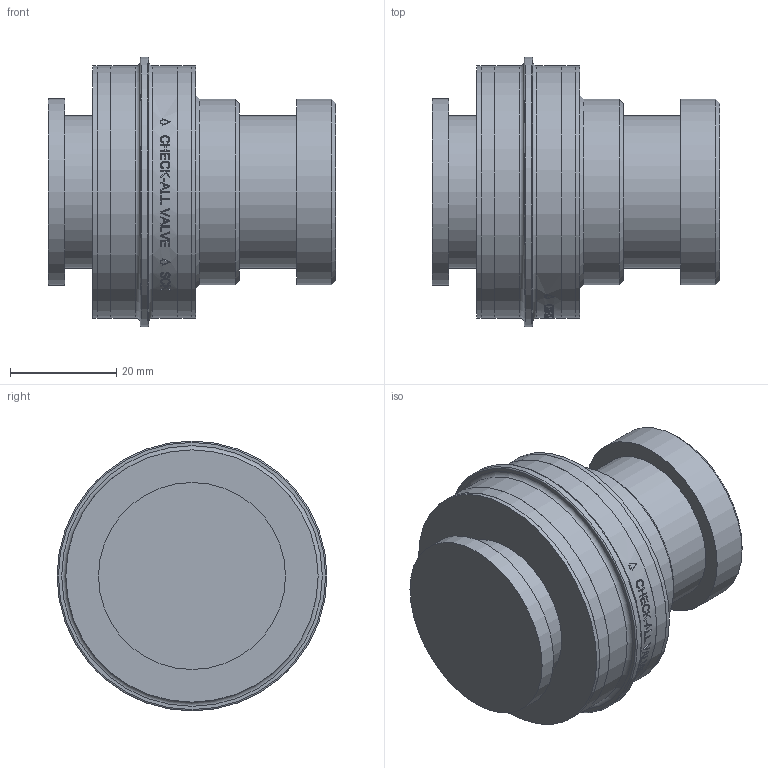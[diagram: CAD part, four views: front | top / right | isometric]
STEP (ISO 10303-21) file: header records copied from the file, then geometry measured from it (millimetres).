
FILE_DESCRIPTION( ( 'Unknown' ), '1' );
FILE_NAME( 'Y:/ENGR/3D Solid Edge Models/SC/SC-PRT/SCK.stp', 'Unknown', ( 'Unknown' ), ( 'Unknown' ), 'PSStep 14.0', 'Unknown', ' ' );
FILE_SCHEMA( ( 'AUTOMOTIVE_DESIGN { 1 0 10303 214 1 1 1 1 }' ) );
Length unit declared in the file: inch
Products named in the file (1): 1
Bounding box: 54.09 x 50.8 x 50.8 mm (x, y, z)
Volume: 63077.4 mm3; surface area: 11472.1 mm2
Topology: 1 solids, 1 shells, 217 faces, 536 edges, 355 vertices
Faces by surface type: plane 121, bspline 54, cylinder 35, torus 4, cone 3
Full cylindrical faces by diameter (mm): 28.829 x2, 34.925 x2, 35.179 x1, 47.473 x4, 47.498 x2, 50.8 x1
Entity records: 9584 total; most frequent: CARTESIAN_POINT 3846, ORIENTED_EDGE 1034, EDGE_CURVE 517, B_SPLINE_CURVE_WITH_KNOTS 486, DIRECTION 390, VERTEX_POINT 355, EDGE_LOOP 270, FACE_OUTER_BOUND 233
